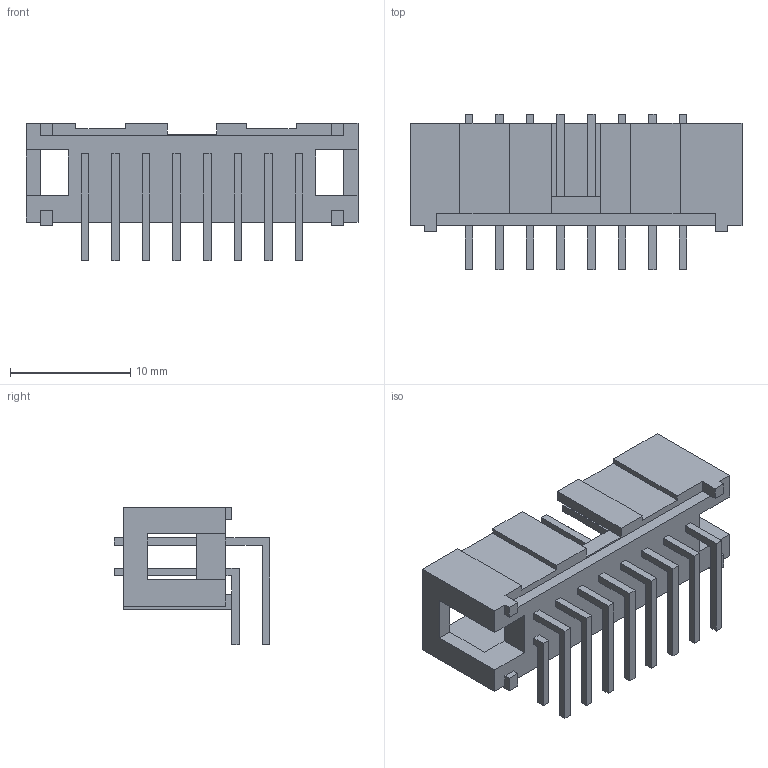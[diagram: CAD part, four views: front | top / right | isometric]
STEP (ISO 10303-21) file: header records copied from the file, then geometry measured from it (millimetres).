
FILE_DESCRIPTION(('STEP AP242'),'1');
FILE_NAME('plug_xg4c-1634.stp','2022-03-24T10:14:29',('TraceParts'),('TraceParts S.A.'),'Spatial InterOp 3D',' ',' ');
FILE_SCHEMA(('AP242_MANAGED_MODEL_BASED_3D_ENGINEERING_MIM_LF {1 0 10303 442 1 1 4}'));
Length unit declared in the file: millimetre
Products named in the file (1): plug_xg4c-1634
Bounding box: 27.6 x 12.94 x 11.4 mm (x, y, z)
Volume: 872.4 mm3; surface area: 2047.3 mm2
Topology: 1 solids, 1 shells, 246 faces, 644 edges, 428 vertices
Faces by surface type: plane 246
Entity records: 7419 total; most frequent: CARTESIAN_POINT 1319, ORIENTED_EDGE 1288, DIRECTION 1138, EDGE_CURVE 644, LINE 644, VECTOR 644, VERTEX_POINT 428, EDGE_LOOP 278
